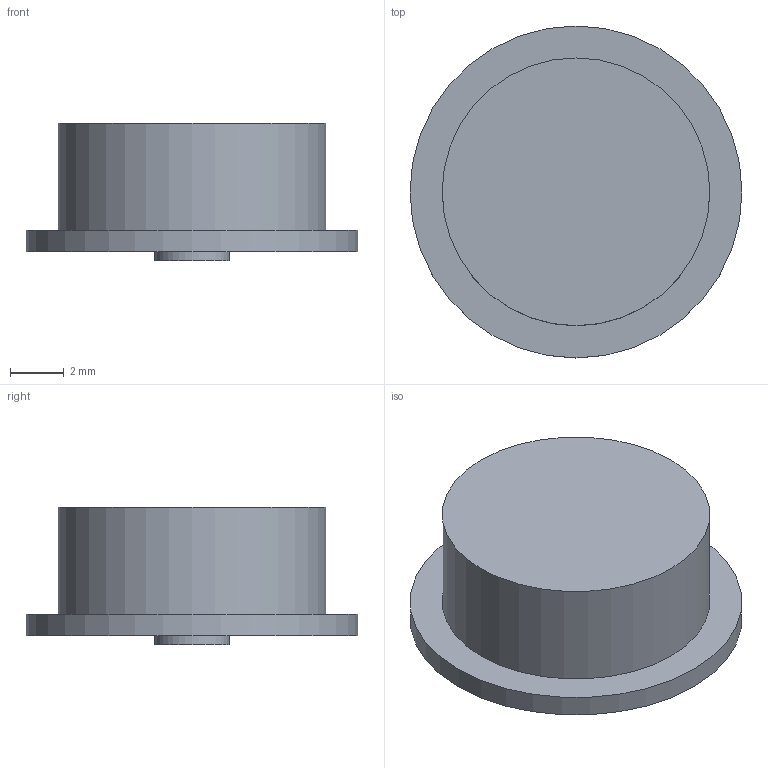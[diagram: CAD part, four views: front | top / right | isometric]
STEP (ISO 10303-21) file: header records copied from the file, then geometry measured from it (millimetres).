
FILE_DESCRIPTION(('FreeCAD Model'),'2;1');
FILE_NAME('Open CASCADE Shape Model','2026-10-20T15:18:15',('FreeCAD'),( 'FreeCAD'),'Open CASCADE STEP processor 7.8','FreeCAD','Unknown');
FILE_SCHEMA(('AUTOMOTIVE_DESIGN { 1 0 10303 214 1 1 1 1 }'));
Length unit declared in the file: millimetre
Products named in the file (1): Open CASCADE STEP translator 7.8 9
Bounding box: 12.4 x 12.4 x 5.15 mm (x, y, z)
Volume: 412.9 mm3; surface area: 401.4 mm2
Topology: 1 solids, 1 shells, 7 faces, 9 edges, 6 vertices
Faces by surface type: plane 4, cylinder 3
Full cylindrical faces by diameter (mm): 2.8 x1, 10 x1, 12.4 x1
Entity records: 159 total; most frequent: DIRECTION 31, CARTESIAN_POINT 23, ORIENTED_EDGE 18, AXIS2_PLACEMENT_3D 14, FACE_BOUND 9, EDGE_LOOP 9, EDGE_CURVE 9, ADVANCED_FACE 7
